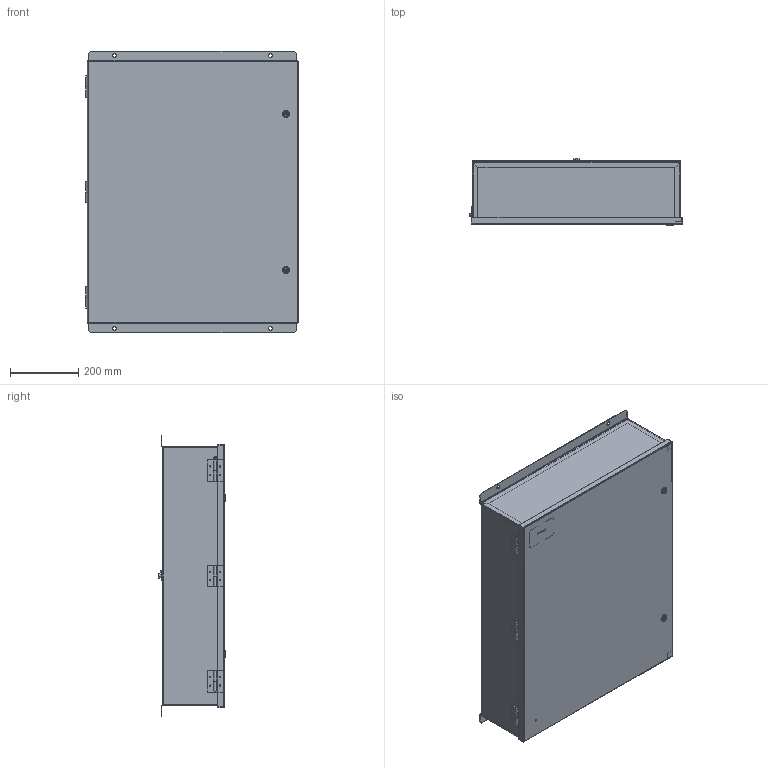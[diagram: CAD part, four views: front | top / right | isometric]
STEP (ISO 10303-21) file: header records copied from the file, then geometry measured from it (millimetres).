
FILE_DESCRIPTION(/* description */ ('Unknown'),/* implementation_level */ '2;1');
FILE_NAME(/* name */ '1420G7',/* time_stamp */ '2019-01-31T07:49:35-05:00',/* author */ ('Unknown'),/* organization */ ('Unknown'),/* preprocessor_version */ 'ST-DEVELOPER v16.7',/* originating_system */ 'DEX',/* authorisation */ $);
FILE_SCHEMA (('AUTOMOTIVE_DESIGN {1 0 10303 214 3 1 1}'));
Length unit declared in the file: millimetre
Products named in the file (22): 1420G7; COM43482; HNG10680; STD21878; HNG10680-FM; COM43111; COM48631; std26094; KIT95018; WAF25059; NTS166105; LAB30005; COM43096; AKT95002; GSK10080; LOC130655; SCS19491; KIT90256; NTS165305; NTS16535; QLB20222
Assembly tree (36 placements, depth 3):
  1420G7
    COM43482
      HNG10680  x3
      STD21878
      COM43482
    HNG10680-FM  x3
    COM43111  x2
    COM48631
    STD21878
    std26094  x4
    KIT95018
      WAF25059
      NTS166105
      LAB30005
    COM43096
    AKT95002  x2
      WAF25059
      NTS166105
    GSK10080  x2
    LOC130655  x2
    SCS19491
    KIT90256
      LAB30005
      NTS165305
      NTS16535
    QLB20222
Bounding box: 624.19 x 195.96 x 825.5 mm (x, y, z)
Volume: 3973895.7 mm3; surface area: 4088191.2 mm2
Topology: 31 solids, 31 shells, 740 faces, 1779 edges, 1149 vertices
Faces by surface type: plane 504, cylinder 172, bspline 28, cone 22, torus 14
Full cylindrical faces by diameter (mm): 3.251 x12, 3.556 x12, 4.318 x1, 4.763 x3, 4.826 x1, 4.976 x1, 6.35 x3, 7.137 x2, 7.805 x3, 8.382 x4, 9.525 x5, 11.113 x4, 11.303 x3, 12.7 x4, 13.106 x2, 13.589 x2, 16.51 x4, 20.015 x2, 25.4 x3
Entity records: 17826 total; most frequent: CARTESIAN_POINT 5804, ORIENTED_EDGE 2322, DIRECTION 2287, EDGE_CURVE 1161, AXIS2_PLACEMENT_3D 770, VERTEX_POINT 765, LINE 747, VECTOR 747
